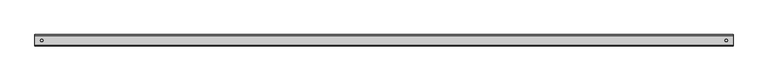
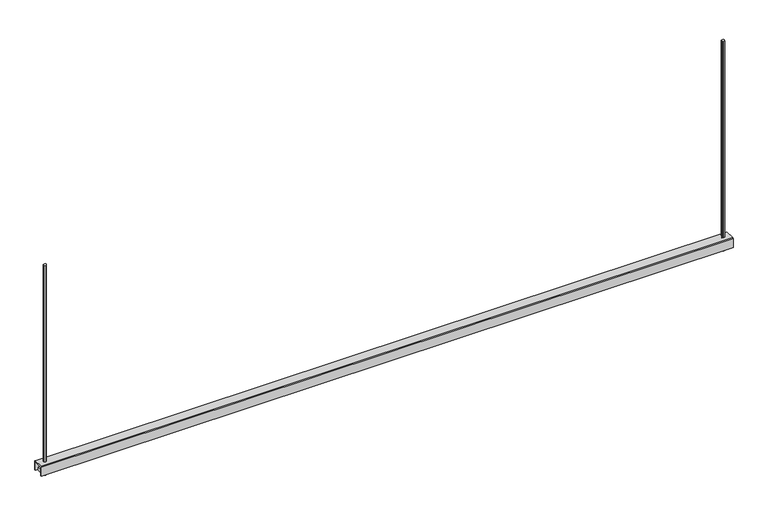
"""IFC4 building model written with IfcOpenShell, lengths in millimetres: proxy geometry, Beared-Hanger : BearedHanger."""

from ifc_helpers import new_model, si_unit, frame, origin, place, context, project, spatial, polyline, outline, extrude, source, transform, mapped, element, save


def mechanical_equipment_df2ff21b(model_context):
    return source(origin(), model_context, "Body", "SweptSolid", [
        extrude(outline(polyline([(1187.4189758, -17.3962402), (1187.4189758, 16.7883301), (1217.2358704, 16.7883301), (1217.2358704, -17.3962402), (1187.4189758, -17.3962402)])), frame((0.0, 0.0, -774.3158485), z_axis=(0.0, 0.0, 1.0), x_axis=(1.0, 0.0, 0.0)), (0.0, 0.0, 1.0), 10.0),
        extrude(outline(polyline([(1202.3274231, 5.0), (1205.8625793, 3.5351562), (1207.3280334, 0.0), (1205.8625793, -3.5351563), (1202.3274231, -5.0), (1198.7922668, -3.5351563), (1197.3274231, 0.0), (1198.7922668, 3.5351562), (1202.3274231, 5.0)])), frame((0.0, 0.0, -787.9004432), z_axis=(0.0, 0.0, 1.0), x_axis=(1.0, 0.0, 0.0)), (0.0, 0.0, 1.0), 787.9004432),
        extrude(outline(polyline([(-1187.4189758, 16.7883301), (-1187.4189758, -17.3962402), (-1217.2358704, -17.3962402), (-1217.2358704, 16.7883301), (-1187.4189758, 16.7883301)])), frame((0.0, 0.0, -774.3158485), z_axis=(0.0, 0.0, 1.0), x_axis=(1.0, 0.0, 0.0)), (0.0, 0.0, 1.0), 10.0),
        extrude(outline(polyline([(-1202.3274231, 5.0), (-1198.7922668, 3.5351563), (-1197.3274231, 0.0), (-1198.7922668, -3.5351562), (-1202.3274231, -5.0), (-1205.8625793, -3.5351562), (-1207.3280334, 0.0), (-1205.8625793, 3.5351563), (-1202.3274231, 5.0)])), frame((0.0, 0.0, -787.9004432), z_axis=(0.0, 0.0, 1.0), x_axis=(1.0, 0.0, 0.0)), (0.0, 0.0, 1.0), 787.9004432),
        extrude(outline(polyline([(-17.8259277, -737.9004432), (17.1740723, -737.9004432), (19.6740723, -740.4001381), (19.6740723, -774.3158485), (16.7883301, -774.3158485), (16.7883301, -740.9003212), (-17.3962402, -740.9003212), (-17.3962402, -774.3158485), (-20.3259277, -774.3158485), (-20.3259277, -740.4001381), (-17.8259277, -737.9004432)])), frame((-1226.3719177, 0.0, 0.0), z_axis=(1.0, 0.0, 0.0), x_axis=(0.0, 1.0, 0.0)), (0.0, 0.0, 1.0), 2452.7438354),
    ])


if __name__ == "__main__":
    model = new_model("IFC4")
    model_context = context("Model", 3, world=origin())
    ifc_project = project(units=[si_unit("LENGTHUNIT", "METRE", prefix="MILLI")], contexts=[model_context])
    site = spatial("IfcSite", under=ifc_project)
    building = spatial("IfcBuilding", under=site)
    placement = place(None, origin())
    mechanical_equipment_shape = mechanical_equipment_df2ff21b(model_context)
    element("IfcBuildingElementProxy", 1, Name="Beared-Hanger : BearedHanger", ObjectType="Beared-Hanger : BearedHanger", at=placement, inside=building, context=model_context, shape_type="MappedRepresentation", body=[
        mapped(mechanical_equipment_shape, transform((0.0, 0.0, 0.0), x_axis=(1.0, 0.0, 0.0), y_axis=(0.0, 1.0, 0.0), z_axis=(0.0, 0.0, 1.0))),
    ])
    save(model, "model.ifc")
